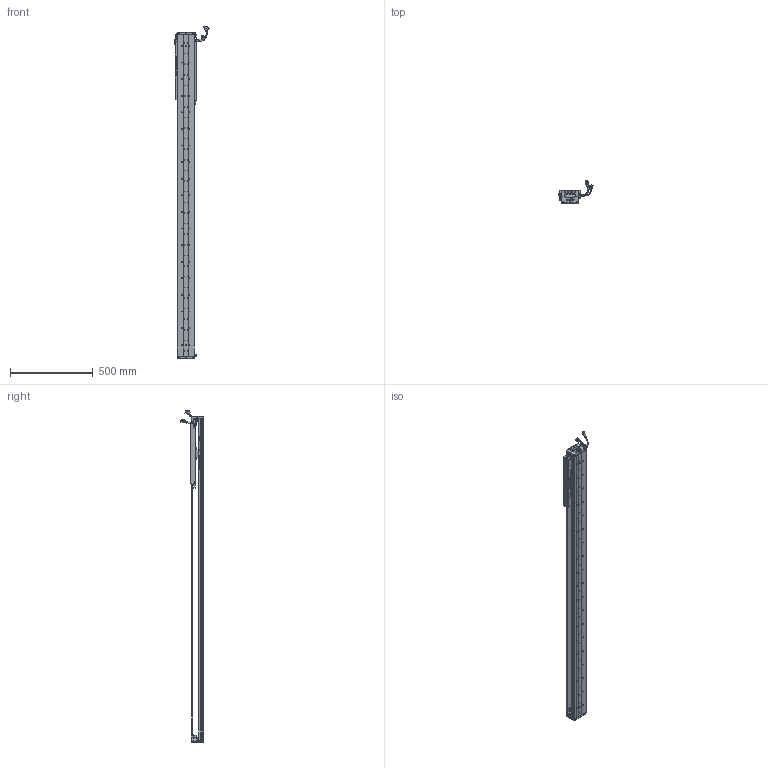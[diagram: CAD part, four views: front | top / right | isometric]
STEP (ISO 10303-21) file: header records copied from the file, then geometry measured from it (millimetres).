
FILE_DESCRIPTION (( 'STEP AP203' ), '1' );
FILE_NAME ('Z5-RY100D-1-L500-B-K.SLDASM_1500.step', '2021-05-17T03:33:38', ( '盈信电脑' ), ( '东莞市道滘镇水果街19号' ), 'SwSTEP 2.0', 'SolidWorks 2016', '' );
FILE_SCHEMA (( 'CONFIG_CONTROL_DESIGN' ));
Length unit declared in the file: millimetre
Products named in the file (36): 140雄赽晤鎢ん堤盄; Z-RY100D詩湍狟揤裔; Z5-RY100-L500詩湍90mm遵_1500; SCREW-M1.6; COVER-Part-1; HARNESS; Z5-RY100D-500-倰第菁釱_1500; 080黍杅芛假蚾釱21遴; SCREW-M1.6-3; 100-Z-臏賑輸盄裔(21遴); SHIELDPLATE; HARNESS-Part-2; SCREW-M1.6-2; COVER; SCREW-M1.7; SEAL-Part-1; Z-RY100D詩湍奻揤裔; Z5-RY100D-1-L500-B-K.SLDASM_1500; LABEL-Part-1; SCALE; 覜茼ん672; 榋妏寠巭燃_暯_M2_2; HARNESS-Part-1; SCALE-Part-1; SCALE-Part-2; PSLH080_PSLF2; SEAL; HOLDER0; Z-100詩湍傷裔啣; LABEL; SCREW-M1.7-1; Z-RY100D覜茼んえ; PBU_SHEET; Z5-RY100铝滑块（21款）; 140蚥薯蝶輸; SCREW-M1.6-1
Assembly tree (43 placements, depth 4):
  Z5-RY100D-1-L500-B-K.SLDASM_1500
    Z5-RY100D-500-倰第菁釱_1500
    Z5-RY100铝滑块（21款）
    PSLH080_PSLF2
      SCALE
        SCALE-Part-1
        SCALE-Part-2
      HARNESS
        HARNESS-Part-1
        HARNESS-Part-2
      LABEL
        LABEL-Part-1
      COVER
        COVER-Part-1
      SEAL
        SEAL-Part-1
      榋妏寠巭燃_暯_M2_2
      SHIELDPLATE
      SCREW-M1.7
      SCREW-M1.7-1
      PBU_SHEET
      SCREW-M1.6
      SCREW-M1.6-1
      SCREW-M1.6-2
      SCREW-M1.6-3
      HOLDER0
    080黍杅芛假蚾釱21遴
    Z-100詩湍傷裔啣  x2
    140蚥薯蝶輸  x2
    覜茼ん672  x3
    Z-RY100D覜茼んえ  x3
    100-Z-臏賑輸盄裔(21遴)
    140雄赽晤鎢ん堤盄
    Z5-RY100-L500詩湍90mm遵_1500
    Z-RY100D詩湍狟揤裔  x2
    Z-RY100D詩湍奻揤裔  x2
Bounding box: 205.84 x 136.11 x 2000.43 mm (x, y, z)
Volume: 4029613.5 mm3; surface area: 1538290.1 mm2
Topology: 38 solids, 38 shells, 2831 faces, 7603 edges, 4836 vertices
Faces by surface type: cylinder 1326, plane 1157, cone 226, torus 69, bspline 53
Entity records: 79929 total; most frequent: CARTESIAN_POINT 16763, DIRECTION 12809, ORIENTED_EDGE 12086, EDGE_CURVE 6043, AXIS2_PLACEMENT_3D 4778, VERTEX_POINT 3904, LINE 3253, VECTOR 3253
